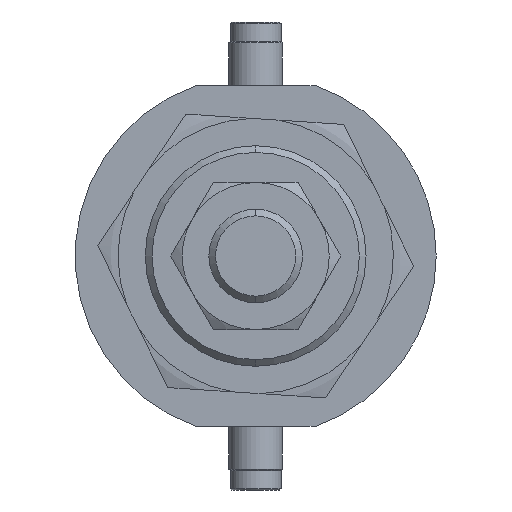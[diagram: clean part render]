
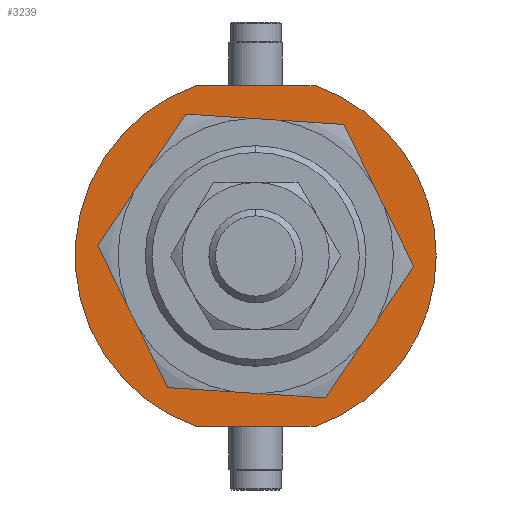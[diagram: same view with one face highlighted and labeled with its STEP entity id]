
A CAD part, left-side view. The second image highlights one B-rep face of the part: STEP entity #3239.
In plain terms, the highlighted planar face has unit normal (-1, 0, 0) as drawn and (0, 1, 0) by its records, which use the part's own axes.
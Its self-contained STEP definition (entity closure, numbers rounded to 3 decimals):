
#57 = CARTESIAN_POINT ( 'NONE',  ( 0., 4.5, 0. ) ) ;
#66 = EDGE_CURVE ( 'NONE', #4089, #1121, #1367, .T. ) ;
#105 = CARTESIAN_POINT ( 'NONE',  ( 25.5, 4.5, -8.874 ) ) ;
#116 = EDGE_CURVE ( 'NONE', #1706, #2989, #1498, .T. ) ;
#137 = AXIS2_PLACEMENT_3D ( 'NONE', #2366, #3317, #4168 ) ;
#170 = DIRECTION ( 'NONE',  ( 0., 0., -1. ) ) ;
#187 = VERTEX_POINT ( 'NONE', #3198 ) ;
#212 = DIRECTION ( 'NONE',  ( 0., 1., 0. ) ) ;
#242 = LINE ( 'NONE', #3147, #1136 ) ;
#359 = DIRECTION ( 'NONE',  ( 0., 0., 1. ) ) ;
#406 = ORIENTED_EDGE ( 'NONE', *, *, #2582, .T. ) ;
#477 = FACE_BOUND ( 'NONE', #3757, .T. ) ;
#571 = VERTEX_POINT ( 'NONE', #4027 ) ;
#671 = CIRCLE ( 'NONE', #3224, 27. ) ;
#675 = EDGE_LOOP ( 'NONE', ( #2812, #406, #1347, #3550, #2404 ) ) ;
#701 = DIRECTION ( 'NONE',  ( 0., 0., 1. ) ) ;
#742 = AXIS2_PLACEMENT_3D ( 'NONE', #3689, #4128, #359 ) ;
#798 = CARTESIAN_POINT ( 'NONE',  ( -25.5, 4.5, -8.874 ) ) ;
#980 = CARTESIAN_POINT ( 'NONE',  ( 0., 4.5, 0. ) ) ;
#1037 = VECTOR ( 'NONE', #2997, 1000. ) ;
#1043 = AXIS2_PLACEMENT_3D ( 'NONE', #980, #212, #1674 ) ;
#1121 = VERTEX_POINT ( 'NONE', #798 ) ;
#1136 = VECTOR ( 'NONE', #170, 1000. ) ;
#1347 = ORIENTED_EDGE ( 'NONE', *, *, #116, .T. ) ;
#1367 = CIRCLE ( 'NONE', #1043, 27. ) ;
#1403 = AXIS2_PLACEMENT_3D ( 'NONE', #1492, #1919, #2486 ) ;
#1492 = CARTESIAN_POINT ( 'NONE',  ( 0., 4.5, 0. ) ) ;
#1498 = CIRCLE ( 'NONE', #742, 27. ) ;
#1586 = FACE_OUTER_BOUND ( 'NONE', #675, .T. ) ;
#1660 = CARTESIAN_POINT ( 'NONE',  ( -25.5, 4.5, 8.874 ) ) ;
#1674 = DIRECTION ( 'NONE',  ( 0., 0., 1. ) ) ;
#1706 = VERTEX_POINT ( 'NONE', #1660 ) ;
#1767 = CIRCLE ( 'NONE', #2310, 16.5 ) ;
#1919 = DIRECTION ( 'NONE',  ( 0., 1., 0. ) ) ;
#2244 = LINE ( 'NONE', #4239, #1037 ) ;
#2310 = AXIS2_PLACEMENT_3D ( 'NONE', #2929, #3627, #3000 ) ;
#2366 = CARTESIAN_POINT ( 'NONE',  ( 0., 4.5, 0. ) ) ;
#2404 = ORIENTED_EDGE ( 'NONE', *, *, #2751, .T. ) ;
#2486 = DIRECTION ( 'NONE',  ( 0., 0., 1. ) ) ;
#2582 = EDGE_CURVE ( 'NONE', #1121, #1706, #2244, .T. ) ;
#2620 = CARTESIAN_POINT ( 'NONE',  ( 0., 4.5, 27. ) ) ;
#2703 = EDGE_CURVE ( 'NONE', #187, #4146, #1767, .T. ) ;
#2751 = EDGE_CURVE ( 'NONE', #571, #4089, #242, .T. ) ;
#2812 = ORIENTED_EDGE ( 'NONE', *, *, #66, .T. ) ;
#2842 = EDGE_CURVE ( 'NONE', #4146, #187, #2860, .T. ) ;
#2860 = CIRCLE ( 'NONE', #1403, 16.5 ) ;
#2929 = CARTESIAN_POINT ( 'NONE',  ( 0., 4.5, 0. ) ) ;
#2989 = VERTEX_POINT ( 'NONE', #2620 ) ;
#2997 = DIRECTION ( 'NONE',  ( 0., 0., 1. ) ) ;
#3000 = DIRECTION ( 'NONE',  ( 0., 0., 1. ) ) ;
#3099 = ORIENTED_EDGE ( 'NONE', *, *, #2842, .F. ) ;
#3147 = CARTESIAN_POINT ( 'NONE',  ( 25.5, 4.5, -8.874 ) ) ;
#3198 = CARTESIAN_POINT ( 'NONE',  ( 0., 4.5, 16.5 ) ) ;
#3224 = AXIS2_PLACEMENT_3D ( 'NONE', #57, #4170, #701 ) ;
#3239 = ADVANCED_FACE ( 'NONE', ( #477, #1586 ), #3592, .T. ) ;
#3301 = CARTESIAN_POINT ( 'NONE',  ( 0., 4.5, -16.5 ) ) ;
#3317 = DIRECTION ( 'NONE',  ( 0., 1., 0. ) ) ;
#3334 = ORIENTED_EDGE ( 'NONE', *, *, #2703, .F. ) ;
#3550 = ORIENTED_EDGE ( 'NONE', *, *, #3896, .T. ) ;
#3592 = PLANE ( 'NONE',  #137 ) ;
#3627 = DIRECTION ( 'NONE',  ( 0., 1., 0. ) ) ;
#3689 = CARTESIAN_POINT ( 'NONE',  ( 0., 4.5, 0. ) ) ;
#3757 = EDGE_LOOP ( 'NONE', ( #3334, #3099 ) ) ;
#3896 = EDGE_CURVE ( 'NONE', #2989, #571, #671, .T. ) ;
#4027 = CARTESIAN_POINT ( 'NONE',  ( 25.5, 4.5, 8.874 ) ) ;
#4089 = VERTEX_POINT ( 'NONE', #105 ) ;
#4128 = DIRECTION ( 'NONE',  ( 0., 1., 0. ) ) ;
#4146 = VERTEX_POINT ( 'NONE', #3301 ) ;
#4168 = DIRECTION ( 'NONE',  ( 0., 0., 1. ) ) ;
#4170 = DIRECTION ( 'NONE',  ( 0., 1., 0. ) ) ;
#4239 = CARTESIAN_POINT ( 'NONE',  ( -25.5, 4.5, -8.874 ) ) ;
